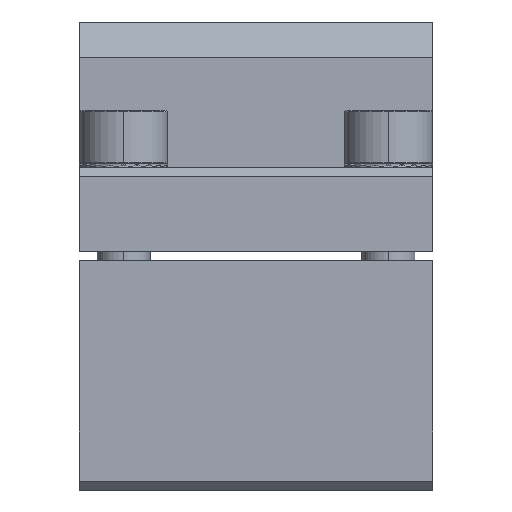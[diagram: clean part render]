
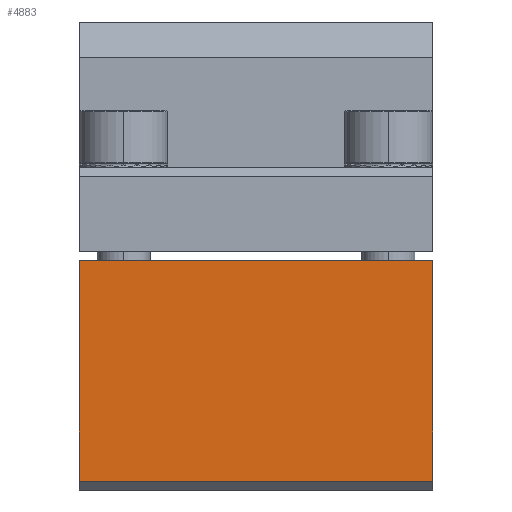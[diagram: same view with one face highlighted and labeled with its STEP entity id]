
A CAD part, left-side view. The second image highlights one B-rep face of the part: STEP entity #4883.
In plain terms, the highlighted planar face has unit normal (-1, 0, 0).
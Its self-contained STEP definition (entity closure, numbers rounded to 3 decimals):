
#8 = DIRECTION ( 'NONE',  ( 0., 0., -1. ) ) ;
#153 = CARTESIAN_POINT ( 'NONE',  ( -37.5, -20., 1. ) ) ;
#193 = EDGE_CURVE ( 'NONE', #2739, #7965, #7122, .T. ) ;
#788 = CARTESIAN_POINT ( 'NONE',  ( -37.5, 20., 26. ) ) ;
#1349 = VECTOR ( 'NONE', #7581, 1000. ) ;
#1533 = DIRECTION ( 'NONE',  ( 0., -1., 0. ) ) ;
#1962 = EDGE_LOOP ( 'NONE', ( #4406, #5948, #4837, #4813 ) ) ;
#2025 = AXIS2_PLACEMENT_3D ( 'NONE', #2185, #4382, #2276 ) ;
#2185 = CARTESIAN_POINT ( 'NONE',  ( -37.5, -20., 53. ) ) ;
#2276 = DIRECTION ( 'NONE',  ( 0., 0., -1. ) ) ;
#2305 = CARTESIAN_POINT ( 'NONE',  ( -37.5, 20., 53. ) ) ;
#2553 = VERTEX_POINT ( 'NONE', #6846 ) ;
#2739 = VERTEX_POINT ( 'NONE', #7862 ) ;
#3510 = VECTOR ( 'NONE', #5826, 1000. ) ;
#3542 = PLANE ( 'NONE',  #2025 ) ;
#3719 = CARTESIAN_POINT ( 'NONE',  ( -37.5, -20., 26. ) ) ;
#3745 = CARTESIAN_POINT ( 'NONE',  ( -37.5, 20., 1. ) ) ;
#4382 = DIRECTION ( 'NONE',  ( 1., 0., 0. ) ) ;
#4406 = ORIENTED_EDGE ( 'NONE', *, *, #6695, .T. ) ;
#4813 = ORIENTED_EDGE ( 'NONE', *, *, #193, .T. ) ;
#4837 = ORIENTED_EDGE ( 'NONE', *, *, #6316, .F. ) ;
#4883 = ADVANCED_FACE ( 'NONE', ( #8304 ), #3542, .F. ) ;
#5711 = LINE ( 'NONE', #5753, #6481 ) ;
#5753 = CARTESIAN_POINT ( 'NONE',  ( -37.5, -20., 53. ) ) ;
#5826 = DIRECTION ( 'NONE',  ( 0., 1., 0. ) ) ;
#5872 = EDGE_CURVE ( 'NONE', #6402, #2553, #6268, .T. ) ;
#5948 = ORIENTED_EDGE ( 'NONE', *, *, #5872, .T. ) ;
#6268 = LINE ( 'NONE', #153, #6479 ) ;
#6316 = EDGE_CURVE ( 'NONE', #2739, #2553, #5711, .T. ) ;
#6402 = VERTEX_POINT ( 'NONE', #3745 ) ;
#6479 = VECTOR ( 'NONE', #1533, 1000. ) ;
#6481 = VECTOR ( 'NONE', #8, 1000. ) ;
#6695 = EDGE_CURVE ( 'NONE', #7965, #6402, #6962, .T. ) ;
#6846 = CARTESIAN_POINT ( 'NONE',  ( -37.5, -20., 1. ) ) ;
#6962 = LINE ( 'NONE', #2305, #1349 ) ;
#7122 = LINE ( 'NONE', #3719, #3510 ) ;
#7581 = DIRECTION ( 'NONE',  ( 0., 0., -1. ) ) ;
#7862 = CARTESIAN_POINT ( 'NONE',  ( -37.5, -20., 26. ) ) ;
#7965 = VERTEX_POINT ( 'NONE', #788 ) ;
#8304 = FACE_OUTER_BOUND ( 'NONE', #1962, .T. ) ;
